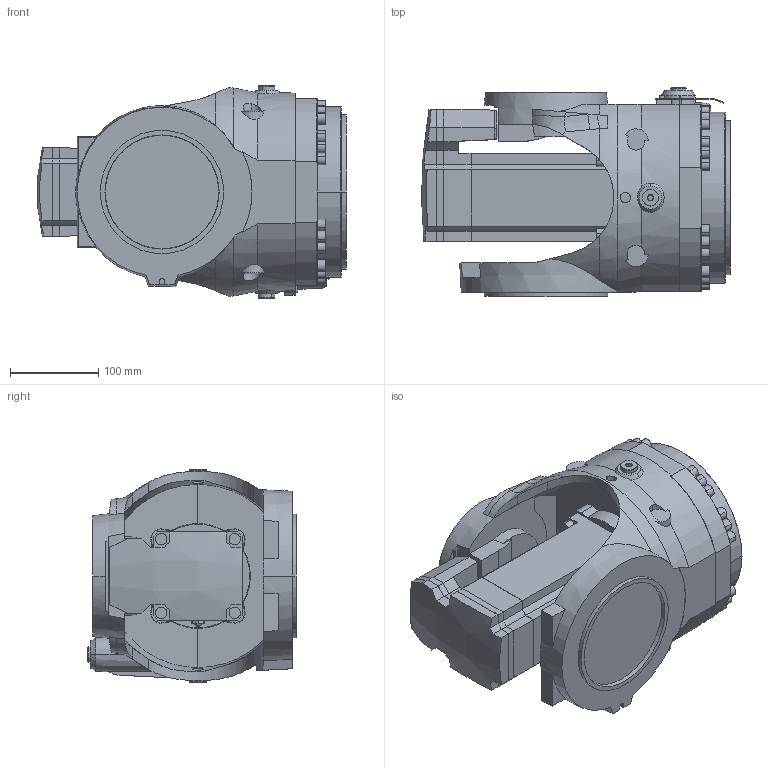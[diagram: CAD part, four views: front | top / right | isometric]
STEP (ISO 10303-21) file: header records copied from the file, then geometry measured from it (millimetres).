
FILE_DESCRIPTION (( 'STEP AP214' ), '1' );
FILE_NAME ('IRB7710_360kg-330_OC_00_LINK5_CAD.STEP', '2023-09-26T09:07:45', ( '' ), ( '' ), 'SwSTEP 2.0', 'SolidWorks 2022', '' );
FILE_SCHEMA (( 'AUTOMOTIVE_DESIGN' ));
Length unit declared in the file: millimetre
Products named in the file (1): IRB7710_360kg-330_OC_00_LINK5_CAD
Bounding box: 350.39 x 236.5 x 241 mm (x, y, z)
Volume: 7982036.3 mm3; surface area: 496645.4 mm2
Topology: 1 solids, 2 shells, 734 faces, 1952 edges, 1246 vertices
Faces by surface type: plane 390, cylinder 197, cone 106, bspline 37, sphere 2, torus 2
Entity records: 26332 total; most frequent: CARTESIAN_POINT 8537, ORIENTED_EDGE 3896, DIRECTION 3505, EDGE_CURVE 1948, AXIS2_PLACEMENT_3D 1262, VERTEX_POINT 1246, LINE 981, VECTOR 981
